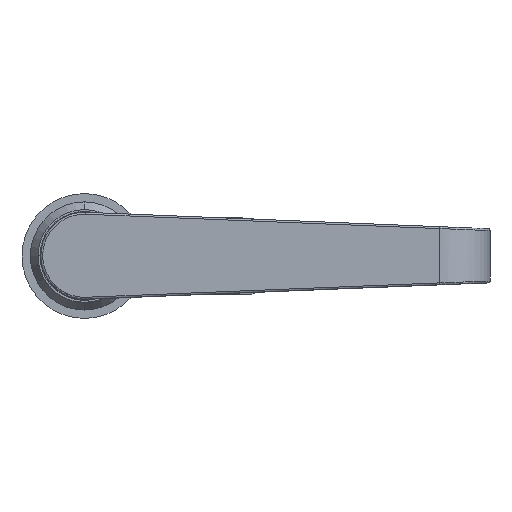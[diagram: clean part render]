
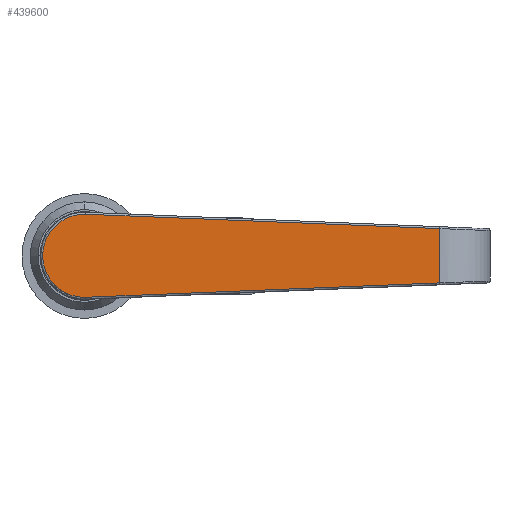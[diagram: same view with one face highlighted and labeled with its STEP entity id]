
A CAD part, top view. The second image highlights one B-rep face of the part: STEP entity #439600.
In plain terms, the highlighted planar face has unit normal (0, 0, 1).
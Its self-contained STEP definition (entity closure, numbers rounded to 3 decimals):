
#11455 = LINE ( 'NONE', #497853, #370590 ) ;
#12583 = LINE ( 'NONE', #299514, #506919 ) ;
#24815 = ORIENTED_EDGE ( 'NONE', *, *, #80098, .T. ) ;
#30468 = VECTOR ( 'NONE', #406344, 1000. ) ;
#42466 = CARTESIAN_POINT ( 'NONE',  ( 0.386, 86.259, 29.7 ) ) ;
#45225 = CARTESIAN_POINT ( 'NONE',  ( 0., 97., 29.7 ) ) ;
#80098 = EDGE_CURVE ( 'NONE', #492283, #259291, #525973, .T. ) ;
#82515 = PLANE ( 'NONE',  #386338 ) ;
#98225 = CARTESIAN_POINT ( 'NONE',  ( 91.95, 104.025, 29.7 ) ) ;
#108259 = EDGE_CURVE ( 'NONE', #259291, #160050, #11455, .T. ) ;
#135694 = ORIENTED_EDGE ( 'NONE', *, *, #264843, .T. ) ;
#140787 = CIRCLE ( 'NONE', #403853, 10.75 ) ;
#145963 = ORIENTED_EDGE ( 'NONE', *, *, #179679, .T. ) ;
#159678 = DIRECTION ( 'NONE',  ( 0., 0., 1. ) ) ;
#160050 = VERTEX_POINT ( 'NONE', #252356 ) ;
#174700 = DIRECTION ( 'NONE',  ( 0.999, 0.041, 0. ) ) ;
#179679 = EDGE_CURVE ( 'NONE', #160050, #345070, #140787, .T. ) ;
#246761 = CARTESIAN_POINT ( 'NONE',  ( 91.95, 56., 29.7 ) ) ;
#252356 = CARTESIAN_POINT ( 'NONE',  ( 0.386, 107.741, 29.7 ) ) ;
#259291 = VERTEX_POINT ( 'NONE', #98225 ) ;
#264843 = EDGE_CURVE ( 'NONE', #345070, #492283, #12583, .T. ) ;
#295788 = DIRECTION ( 'NONE',  ( -0.999, 0.041, 0. ) ) ;
#299514 = CARTESIAN_POINT ( 'NONE',  ( 0.436, 86.261, 29.7 ) ) ;
#313383 = DIRECTION ( 'NONE',  ( 1., 0., 0. ) ) ;
#318364 = EDGE_LOOP ( 'NONE', ( #24815, #395490, #145963, #135694 ) ) ;
#319176 = FACE_OUTER_BOUND ( 'NONE', #318364, .T. ) ;
#321800 = DIRECTION ( 'NONE',  ( 1., 0., 0. ) ) ;
#345070 = VERTEX_POINT ( 'NONE', #42466 ) ;
#370590 = VECTOR ( 'NONE', #295788, 1000. ) ;
#386338 = AXIS2_PLACEMENT_3D ( 'NONE', #45225, #159678, #321800 ) ;
#395490 = ORIENTED_EDGE ( 'NONE', *, *, #108259, .T. ) ;
#403853 = AXIS2_PLACEMENT_3D ( 'NONE', #478172, #472954, #313383 ) ;
#406344 = DIRECTION ( 'NONE',  ( 0., 1., 0. ) ) ;
#409816 = CARTESIAN_POINT ( 'NONE',  ( 91.95, 89.975, 29.7 ) ) ;
#439600 = ADVANCED_FACE ( 'NONE', ( #319176 ), #82515, .T. ) ;
#472954 = DIRECTION ( 'NONE',  ( 0., 0., 1. ) ) ;
#478172 = CARTESIAN_POINT ( 'NONE',  ( -0.05, 97., 29.7 ) ) ;
#492283 = VERTEX_POINT ( 'NONE', #409816 ) ;
#497853 = CARTESIAN_POINT ( 'NONE',  ( 0.436, 107.739, 29.7 ) ) ;
#506919 = VECTOR ( 'NONE', #174700, 1000. ) ;
#525973 = LINE ( 'NONE', #246761, #30468 ) ;
